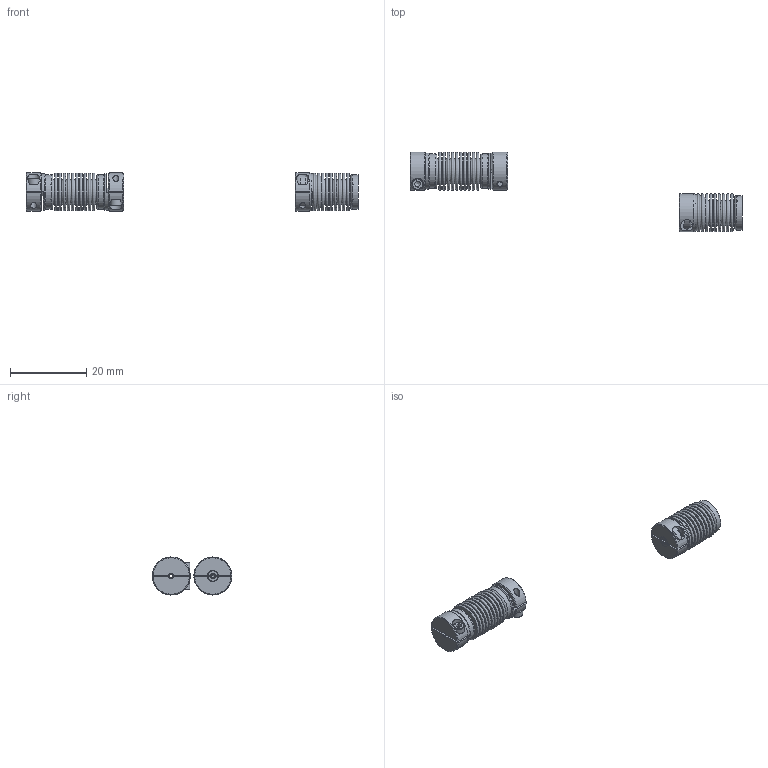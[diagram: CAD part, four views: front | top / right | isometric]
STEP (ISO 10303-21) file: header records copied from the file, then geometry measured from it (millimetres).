
FILE_DESCRIPTION( ( 'Unknown' ), '1' );
FILE_NAME( 'C:/Dokumente und Einstellungen/Sven/Desktop/cad - homepage/KB2/KB2-1-25.stp', 'Unknown', ( 'Unknown' ), ( 'Unknown' ), 'XStep 1.0', 'Unknown', ' ' );
FILE_SCHEMA( ( 'automotive_design' ) );
Length unit declared in the file: millimetre
Products named in the file (4): Assem1; BM1_Standard; KN1_Standard; Socket Head Cap Screw_DIN_DIN 912 M1.6 x 4 --- 4N
Bounding box: 87.33 x 20.95 x 10 mm (x, y, z)
Volume: 1638.3 mm3; surface area: 6621.6 mm2
Topology: 8 solids, 8 shells, 330 faces, 632 edges, 409 vertices
Faces by surface type: plane 167, torus 98, cylinder 41, cone 24
Full cylindrical faces by diameter (mm): 1 x3, 1.6 x6, 1.8 x3, 3 x3, 8.9 x7, 9.1 x4, 9.5 x3
Entity records: 3512 total; most frequent: CARTESIAN_POINT 615, DIRECTION 607, ORIENTED_EDGE 380, AXIS2_PLACEMENT_3D 283, EDGE_LOOP 258, FACE_OUTER_BOUND 201, EDGE_CURVE 190, VERTEX_POINT 163
